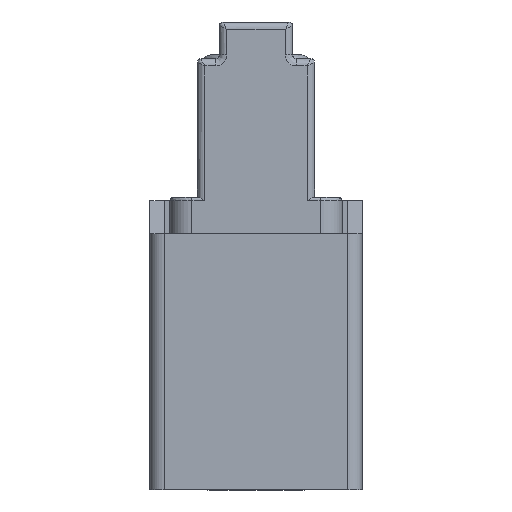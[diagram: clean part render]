
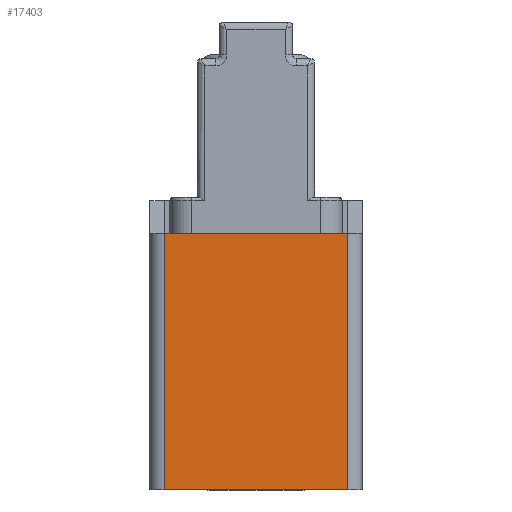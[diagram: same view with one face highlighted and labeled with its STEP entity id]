
A CAD part, left-side view. The second image highlights one B-rep face of the part: STEP entity #17403.
In plain terms, the highlighted planar face has unit normal (-1, 0, 0).
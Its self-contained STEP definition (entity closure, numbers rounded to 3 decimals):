
#1804 = VECTOR ( 'NONE', #17655, 1000. ) ;
#2725 = CARTESIAN_POINT ( 'NONE',  ( 0., 27., -4.5 ) ) ;
#6782 = CARTESIAN_POINT ( 'NONE',  ( 0., 2., -4.5 ) ) ;
#7371 = VECTOR ( 'NONE', #13178, 1000. ) ;
#7787 = CARTESIAN_POINT ( 'NONE',  ( 0., 0., -4.5 ) ) ;
#7865 = DIRECTION ( 'NONE',  ( 0., 0., -1. ) ) ;
#8963 = ORIENTED_EDGE ( 'NONE', *, *, #24445, .T. ) ;
#9163 = AXIS2_PLACEMENT_3D ( 'NONE', #7787, #13992, #7865 ) ;
#9247 = EDGE_CURVE ( 'NONE', #17724, #25685, #20960, .T. ) ;
#12218 = DIRECTION ( 'NONE',  ( 0., 1., 0. ) ) ;
#12810 = FACE_OUTER_BOUND ( 'NONE', #16843, .T. ) ;
#12900 = VECTOR ( 'NONE', #12218, 1000. ) ;
#13178 = DIRECTION ( 'NONE',  ( 0., 0., 1. ) ) ;
#13992 = DIRECTION ( 'NONE',  ( 1., 0., 0. ) ) ;
#14095 = ORIENTED_EDGE ( 'NONE', *, *, #20345, .T. ) ;
#14544 = ORIENTED_EDGE ( 'NONE', *, *, #9247, .T. ) ;
#15595 = CARTESIAN_POINT ( 'NONE',  ( 0., 27., -39.5 ) ) ;
#15961 = VERTEX_POINT ( 'NONE', #2725 ) ;
#16108 = CARTESIAN_POINT ( 'NONE',  ( 0., 2., -4.5 ) ) ;
#16843 = EDGE_LOOP ( 'NONE', ( #8963, #14095, #23996, #14544 ) ) ;
#16920 = CARTESIAN_POINT ( 'NONE',  ( 0., 27., -4.5 ) ) ;
#17098 = DIRECTION ( 'NONE',  ( 0., 0., -1. ) ) ;
#17403 = ADVANCED_FACE ( 'NONE', ( #12810 ), #21177, .F. ) ;
#17655 = DIRECTION ( 'NONE',  ( 0., 1., 0. ) ) ;
#17724 = VERTEX_POINT ( 'NONE', #21043 ) ;
#17805 = VERTEX_POINT ( 'NONE', #15595 ) ;
#18150 = LINE ( 'NONE', #22054, #12900 ) ;
#18924 = VECTOR ( 'NONE', #17098, 1000. ) ;
#20345 = EDGE_CURVE ( 'NONE', #15961, #17805, #21101, .T. ) ;
#20671 = LINE ( 'NONE', #21279, #1804 ) ;
#20960 = LINE ( 'NONE', #6782, #7371 ) ;
#21043 = CARTESIAN_POINT ( 'NONE',  ( 0., 2., -39.5 ) ) ;
#21101 = LINE ( 'NONE', #16920, #18924 ) ;
#21177 = PLANE ( 'NONE',  #9163 ) ;
#21279 = CARTESIAN_POINT ( 'NONE',  ( 0., 0., -39.5 ) ) ;
#21880 = EDGE_CURVE ( 'NONE', #17724, #17805, #20671, .T. ) ;
#22054 = CARTESIAN_POINT ( 'NONE',  ( 0., 29., -4.5 ) ) ;
#23996 = ORIENTED_EDGE ( 'NONE', *, *, #21880, .F. ) ;
#24445 = EDGE_CURVE ( 'NONE', #25685, #15961, #18150, .T. ) ;
#25685 = VERTEX_POINT ( 'NONE', #16108 ) ;
